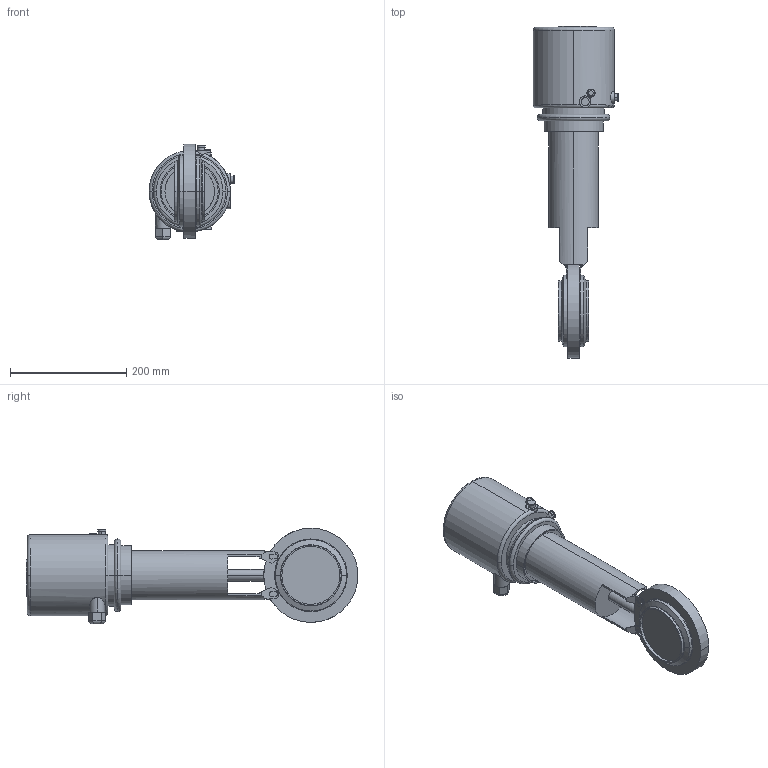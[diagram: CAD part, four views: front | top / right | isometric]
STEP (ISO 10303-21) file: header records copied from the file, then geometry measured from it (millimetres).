
FILE_DESCRIPTION(('Creo Elements/Direct Modeling STEP Export'),'2;1');
FILE_NAME('SV1-100-CU4-12S.stp','2015-12-04T10:53:16',(''),(''),'PTC Creo Elements/Direct Modeling STEP processor for AP214 (Solid Model)','PTC Creo Elements/Direct Modeling 19.0B 21-Mar-2015 (C) Parametric Technology GmbH','');
FILE_SCHEMA(('AUTOMOTIVE_DESIGN { 1 0 10303 214 1 1 1 1 }'));
Length unit declared in the file: millimetre
Products named in the file (3): SV1-100-FZ-12S; CU4-T-SPX_logo; SV1-100-CU4-12S
Assembly tree (2 placements, depth 2):
  SV1-100-CU4-12S
    CU4-T-SPX_logo
    SV1-100-FZ-12S
Bounding box: 148 x 571.38 x 164.4 mm (x, y, z)
Volume: 4180545.7 mm3; surface area: 255410.7 mm2
Topology: 2 solids, 2 shells, 255 faces, 655 edges, 421 vertices
Faces by surface type: plane 114, cylinder 86, extrusion 33, torus 18, cone 4
Entity records: 11580 total; most frequent: CARTESIAN_POINT 5667, ORIENTED_EDGE 1310, DIRECTION 1070, EDGE_CURVE 655, VERTEX_POINT 421, AXIS2_PLACEMENT_3D 371, VECTOR 328, LINE 295
